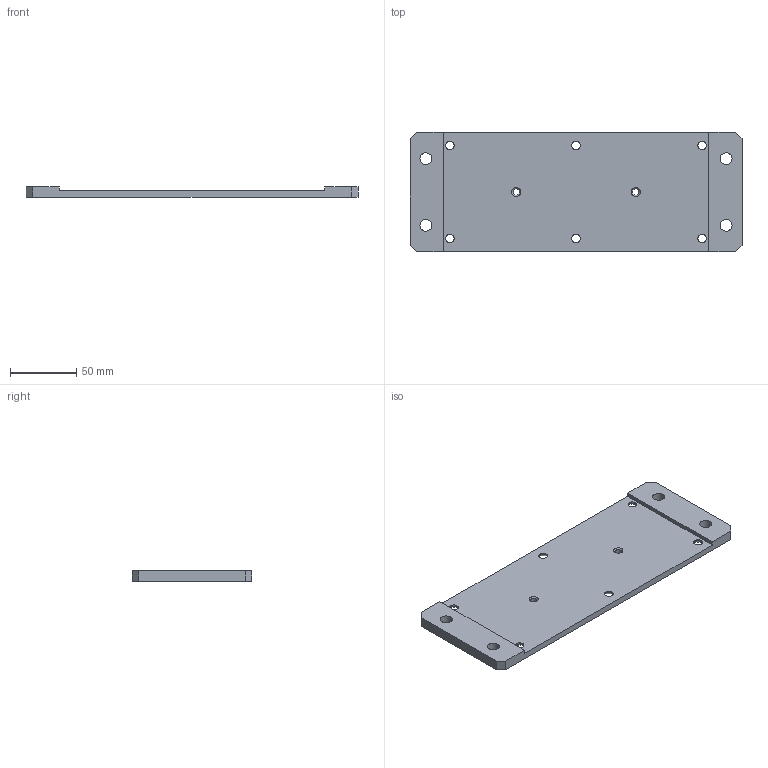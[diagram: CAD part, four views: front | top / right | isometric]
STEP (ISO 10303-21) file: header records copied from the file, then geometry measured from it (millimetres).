
FILE_DESCRIPTION(('STEP AP203'), '1');
FILE_NAME('ﾒﾏﾏﾔ1800.01.25.00.002 - ﾎ魵瑙韃', '', ('UNSPECIFIED'), ('UNSPECIFIED'), 'C3D Converter', 'C3D Toolkit', '');
FILE_SCHEMA(('CONFIG_CONTROL_DESIGN'));
Length unit declared in the file: millimetre
Products named in the file (1): ТППФ1800.01.25.00.002
Bounding box: 250 x 90 x 8 mm (x, y, z)
Volume: 120979 mm3; surface area: 50097.4 mm2
Topology: 1 solids, 1 shells, 34 faces, 88 edges, 56 vertices
Faces by surface type: plane 14, cylinder 12, cone 8
Full cylindrical faces by diameter (mm): 4.917 x2, 6.5 x6, 9 x4
Entity records: 1300 total; most frequent: DIRECTION 170, CARTESIAN_POINT 159, ORIENTED_EDGE 136, EDGE_LOOP 78, EDGE_CURVE 68, AXIS2_PLACEMENT_3D 67, VERTEX_POINT 56, FACE_OUTER_BOUND 40
